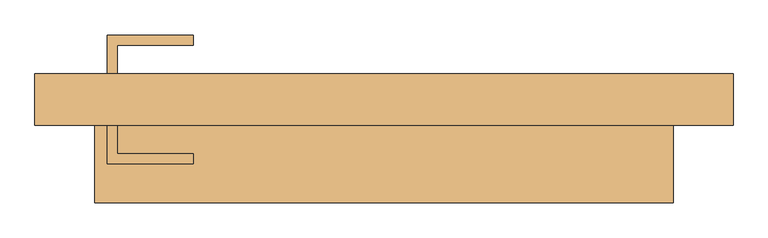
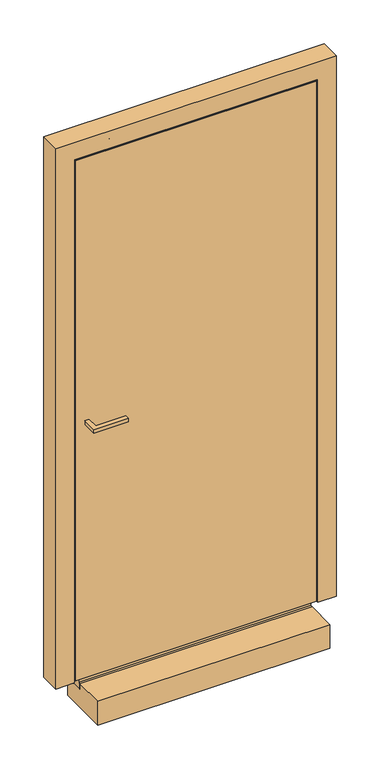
"""IFC4 building model written with IfcOpenShell, lengths in millimetres: door geometry, Reynaers_MasterLine 8_Door_Pivot_Inward Opening_Single Vent_Panel : Reynaers_MasterLine 8_Door_Pivot_Inward Opening_Single Vent_Panel."""

from ifc_helpers import new_model, si_unit, frame, origin, origin_with_axes, place, context, project, spatial, polyline, circle_curve, ellipse_curve, outline, extrude, faceted_brep, source, transform, mapped, element, save
from ifc_brep_helpers import plane_surface, revolved_surface, advanced_brep


def door_be1d781f(model_context):
    return source(origin(), model_context, "Body", "SolidModel", [
        extrude(outline(polyline([(-412.0, -27.0), (-397.0, -27.0), (-397.0, -69.5), (-284.5, -69.5), (-284.5, -84.5), (-412.0, -84.5), (-412.0, -27.0)])), frame((0.0, 0.0, 1000.0), z_axis=(0.0, 0.0, 1.0), x_axis=(1.0, 0.0, 0.0)), (0.0, 0.0, 1.0), 15.0),
        extrude(outline(polyline([(-412.0, 50.0), (-412.0, 107.5), (-284.5, 107.5), (-284.5, 92.5), (-397.0, 92.5), (-397.0, 50.0), (-412.0, 50.0)])), frame((0.0, 0.0, 1000.0), z_axis=(0.0, 0.0, 1.0), x_axis=(1.0, 0.0, 0.0)), (0.0, 0.0, 1.0), 15.0),
        extrude(outline(polyline([(-141.9534375, -10.0030129), (-27.0, -10.0030129), (-27.0, -33.0), (50.0, -33.0), (50.0, -103.0), (-141.9534375, -103.0), (-141.9534375, -10.0030129)])), frame((-430.5, 0.0, 0.0), z_axis=(1.0, 0.0, 0.0), x_axis=(0.0, 1.0, 0.0)), (0.0, 0.0, 1.0), 861.0),
        extrude(outline(polyline([(-430.5, 7.9556368), (430.5, 7.9556368), (430.5, -16.0443635), (-430.5, -16.0443635), (-430.5, 7.9556368)])), origin_with_axes(), (0.0, 0.0, 1.0), 29.0),
        advanced_brep(
        [(-277.0, 49.9998135, 2056.5000055), (-277.0, 49.9998135, 2025.5000055), (-277.0, 41.2, 2025.5000055), (-277.0, 41.2, 2027.6677934), (-277.0, 40.0850084, 2030.5), (-277.0, -18.2000028, 2030.5), (-277.0, -18.2000028, 2056.5000055), (471.5, 49.9998135, 0.0), (471.5, 46.2008135, 0.0), (456.5000055, 46.2008135, 0.0), (456.5000055, -18.2000028, 0.0), (430.5, -18.2000028, 0.0), (430.5, 40.0850084, 0.0), (427.6677934, 41.2, 0.0), (425.5000055, 41.2, 0.0), (425.5000055, 49.9998135, 0.0), (471.5, 49.9998135, 2071.5), (-200.0, 49.9998135, 2071.5), (-200.0, 46.2008135, 2071.5), (471.5, 46.2008135, 2071.5), (-200.0, 46.2008135, 2056.5000055), (456.5000055, 46.2008135, 2056.5000055), (456.5000055, -18.2000028, 2056.5000055), (-200.0, 49.9998135, 2056.5000055), (430.5, -18.2000028, 2030.5), (430.5, 40.0850084, 2030.5), (427.6677934, 41.2, 2027.6677934), (425.5000055, 41.2, 2025.5000055), (425.5000055, 49.9998135, 2025.5000055)],
        [
            (0, 1),
            (1, 2),
            (2, 3),
            (3, 4, circle_curve(frame((-277.0, 41.7014065, 2029.5007685), z_axis=(1.0, 0.0, 0.0), x_axis=(0.0, 0.0, -1.0)), 1.9003175)),
            (4, 5),
            (5, 6),
            (6, 0),
            (7, 8),
            (8, 9),
            (9, 10),
            (10, 11),
            (11, 12),
            (12, 13, circle_curve(frame((429.5007685, 41.7014065, 0.0), z_axis=(0.0, 0.0, 1.0), x_axis=(-1.0, 0.0, 0.0)), 1.9003175)),
            (13, 14),
            (14, 15),
            (15, 7),
            (16, 17),
            (17, 18),
            (18, 19),
            (19, 16),
            (8, 19),
            (18, 20),
            (20, 21),
            (21, 9),
            (6, 22),
            (22, 21),
            (20, 23),
            (23, 0),
            (5, 24),
            (24, 11),
            (10, 22),
            (4, 25),
            (25, 24),
            (3, 26),
            (26, 25, ellipse_curve(frame((429.5007685, 41.7014065, 2029.5007685), z_axis=(0.7071067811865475, 0.0, -0.7071067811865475), x_axis=(0.7071067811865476, 0.0, 0.7071067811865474)), 2.6874548, 1.9003175)),
            (2, 27),
            (27, 14),
            (13, 26),
            (1, 28),
            (28, 27),
            (15, 28),
            (23, 17),
            (16, 7),
            (25, 12),
        ],
        [
            plane_surface(frame((-277.0, 50.0, 2019.5), z_axis=(-1.0, 0.0, 0.0), x_axis=(0.0, -1.0, 0.0))),
            plane_surface(frame((419.5, 50.0, 0.0), z_axis=(0.0, 0.0, -1.0), x_axis=(0.0, -1.0, 0.0))),
            plane_surface(frame((-277.0, 49.9998135, 2071.5), z_axis=(0.0, 0.0, 1.0), x_axis=(1.0, 0.0, 0.0))),
            plane_surface(frame((-277.0, 46.2008135, 2071.5), z_axis=(0.0, -1.0, 0.0), x_axis=(1.0, 0.0, 0.0))),
            plane_surface(frame((-277.0, 46.2008135, 2056.5000055), z_axis=(0.0, 0.0, 1.0), x_axis=(1.0, 0.0, 0.0))),
            plane_surface(frame((-277.0, -18.2000028, 2056.5000055), z_axis=(0.0, -1.0, 0.0), x_axis=(1.0, 0.0, 0.0))),
            plane_surface(frame((-277.0, -18.2000028, 2030.5), z_axis=(0.0, 0.0, -1.0), x_axis=(1.0, 0.0, 0.0))),
            revolved_surface(polyline([(431.4010860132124, 41.7014065, 2027.600451), (-277.0, 41.7014065, 2027.600451)]), (-277.0, 41.7014065, 2029.5007685), (1.0, 0.0, 0.0)),
            plane_surface(frame((-277.0, 41.2, 2027.6677934), z_axis=(0.0, -1.0, 0.0), x_axis=(1.0, 0.0, 0.0))),
            plane_surface(frame((-277.0, 41.2, 2025.5000055), z_axis=(0.0, 0.0, -1.0), x_axis=(1.0, 0.0, 0.0))),
            plane_surface(frame((-277.0, 49.9998135, 2025.5000055), z_axis=(0.0, 1.0, 0.0), x_axis=(1.0, 0.0, 0.0))),
            plane_surface(frame((471.5, 49.9998135, 2071.5), z_axis=(1.0, 0.0, 0.0), x_axis=(0.0, 0.0, -1.0))),
            plane_surface(frame((456.5000055, 46.2008135, 2056.5000055), z_axis=(1.0, 0.0, 0.0), x_axis=(0.0, 0.0, -1.0))),
            plane_surface(frame((430.5, -18.2000028, 2030.5), z_axis=(-1.0, 0.0, 0.0), x_axis=(0.0, 0.0, -1.0))),
            revolved_surface(polyline([(427.60045099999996, 41.7014065, 0.0), (427.60045099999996, 41.7014065, 2031.4010860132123)]), (429.5007685, 41.7014065, 2019.5), (0.0, 0.0, -1.0)),
            plane_surface(frame((425.5000055, 41.2, 2025.5000055), z_axis=(-1.0, 0.0, 0.0), x_axis=(0.0, 0.0, -1.0))),
            plane_surface(frame((-200.0, 50.0, 2019.5), z_axis=(-1.0, 0.0, 0.0), x_axis=(0.0, -1.0, 0.0))),
        ],
        [
            (0, [[1, 2, 3, 4, 5, 6, 7]]),
            (1, [[8, 9, 10, 11, 12, 13, 14, 15, 16]]),
            (2, [[17, 18, 19, 20]]),
            (3, [[21, -19, 22, 23, 24, -9]]),
            (4, [[-7, 25, 26, -23, 27, 28]]),
            (5, [[29, 30, -11, 31, -25, -6]]),
            (6, [[32, 33, -29, -5]]),
            (7, [[34, 35, -32, -4]]),
            (8, [[36, 37, -14, 38, -34, -3]]),
            (9, [[39, 40, -36, -2]]),
            (10, [[41, -39, -1, -28, 42, -17, 43, -16]]),
            (11, [[-43, -20, -21, -8]]),
            (12, [[-24, -26, -31, -10]]),
            (13, [[-30, -33, 44, -12]]),
            (14, [[-44, -35, -38, -13]]),
            (15, [[-37, -40, -41, -15]]),
            (16, [[-22, -18, -42, -27]]),
        ],
    ),
        advanced_brep(
        [(-471.5, 49.9998135, 0.0), (-425.5000055, 49.9998135, 0.0), (-425.5000055, 41.2, 0.0), (-427.6677934, 41.2, 0.0), (-430.5, 40.0850084, 0.0), (-430.5, -18.2000028, 0.0), (-456.5000055, -18.2000028, 0.0), (-456.5000055, 46.2008135, 0.0), (-471.5, 46.2008135, 0.0), (-200.0, 46.2008135, 2056.5000055), (-200.0, 49.9998135, 2056.5000055), (-200.0, 49.9998135, 2071.5), (-200.0, 46.2008135, 2071.5), (-471.5, 49.9998135, 2071.5), (-471.5, 46.2008135, 2071.5), (-456.5000055, -18.2000028, 2056.5000055), (-277.0, -18.2000028, 2056.5000055), (-277.0, 46.2008135, 2056.5000055), (-456.5000055, 46.2008135, 2056.5000055), (-430.5, 40.0850084, 2030.5), (-277.0, 40.0850084, 2030.5), (-277.0, -18.2000028, 2030.5), (-430.5, -18.2000028, 2030.5), (-427.6677934, 41.2, 2027.6677934), (-277.0, 41.2, 2027.6677934), (-425.5000055, 49.9998135, 2025.5000055), (-277.0, 49.9998135, 2025.5000055), (-277.0, 41.2, 2025.5000055), (-425.5000055, 41.2, 2025.5000055), (-277.0, 49.9998135, 2056.5000055)],
        [
            (0, 1),
            (1, 2),
            (2, 3),
            (3, 4, circle_curve(frame((-429.5007685, 41.7014065, 0.0), z_axis=(0.0, 0.0, 1.0), x_axis=(1.0, 0.0, 0.0)), 1.9003175)),
            (4, 5),
            (5, 6),
            (6, 7),
            (7, 8),
            (8, 0),
            (9, 10),
            (10, 11),
            (11, 12),
            (12, 9),
            (11, 13),
            (13, 14),
            (14, 12),
            (15, 16),
            (16, 17),
            (17, 18),
            (18, 15),
            (19, 20),
            (20, 21),
            (21, 22),
            (22, 19),
            (23, 24),
            (24, 20, circle_curve(frame((-277.0, 41.7014065, 2029.5007685), z_axis=(1.0, 0.0, 0.0), x_axis=(0.0, 0.0, -1.0)), 1.9003175)),
            (19, 23, ellipse_curve(frame((-429.5007685, 41.7014065, 2029.5007685), z_axis=(-0.7071067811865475, 0.0, -0.7071067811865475), x_axis=(0.7071067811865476, 0.0, -0.7071067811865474)), 2.6874548, 1.9003175)),
            (25, 26),
            (26, 27),
            (27, 28),
            (28, 25),
            (8, 14),
            (13, 0),
            (7, 18),
            (17, 9),
            (6, 15),
            (5, 22),
            (21, 16),
            (4, 19),
            (3, 23),
            (2, 28),
            (27, 24),
            (1, 25),
            (10, 29),
            (29, 26),
            (29, 17),
        ],
        [
            plane_surface(frame((-419.5, 50.0, 0.0), z_axis=(0.0, 0.0, -1.0), x_axis=(0.0, -1.0, 0.0))),
            plane_surface(frame((-200.0, 50.0, 2019.5), z_axis=(1.0, 0.0, 0.0), x_axis=(0.0, -1.0, 0.0))),
            plane_surface(frame((-471.5, 49.9998135, 2071.5), z_axis=(0.0, 0.0, 1.0), x_axis=(1.0, 0.0, 0.0))),
            plane_surface(frame((-456.5000055, 46.2008135, 2056.5000055), z_axis=(0.0, 0.0, 1.0), x_axis=(1.0, 0.0, 0.0))),
            plane_surface(frame((-430.5, -18.2000028, 2030.5), z_axis=(0.0, 0.0, -1.0), x_axis=(1.0, 0.0, 0.0))),
            revolved_surface(polyline([(-277.0, 41.7014065, 2027.600451), (-431.4010860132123, 41.7014065, 2027.600451)]), (-419.5, 41.7014065, 2029.5007685), (1.0, 0.0, 0.0)),
            plane_surface(frame((-425.5000055, 41.2, 2025.5000055), z_axis=(0.0, 0.0, -1.0), x_axis=(1.0, 0.0, 0.0))),
            plane_surface(frame((-471.5, 49.9998135, 0.0), z_axis=(-1.0, 0.0, 0.0), x_axis=(0.0, 0.0, 1.0))),
            plane_surface(frame((-471.5, 46.2008135, 0.0), z_axis=(0.0, -1.0, 0.0), x_axis=(0.0, 0.0, 1.0))),
            plane_surface(frame((-456.5000055, 46.2008135, 0.0), z_axis=(-1.0, 0.0, 0.0), x_axis=(0.0, 0.0, 1.0))),
            plane_surface(frame((-456.5000055, -18.2000028, 0.0), z_axis=(0.0, -1.0, 0.0), x_axis=(0.0, 0.0, 1.0))),
            plane_surface(frame((-430.5, -18.2000028, 0.0), z_axis=(1.0, 0.0, 0.0), x_axis=(0.0, 0.0, 1.0))),
            revolved_surface(polyline([(-427.60045099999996, 41.7014065, 2031.4010860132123), (-427.60045099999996, 41.7014065, 0.0)]), (-429.5007685, 41.7014065, 0.0), (0.0, 0.0, 1.0)),
            plane_surface(frame((-427.6677934, 41.2, 0.0), z_axis=(0.0, -1.0, 0.0), x_axis=(0.0, 0.0, 1.0))),
            plane_surface(frame((-425.5000055, 41.2, 0.0), z_axis=(1.0, 0.0, 0.0), x_axis=(0.0, 0.0, 1.0))),
            plane_surface(frame((-425.5000055, 49.9998135, 0.0), z_axis=(0.0, 1.0, 0.0), x_axis=(0.0, 0.0, 1.0))),
            plane_surface(frame((-277.0, 50.0, 2019.5), z_axis=(1.0, 0.0, 0.0), x_axis=(0.0, -1.0, 0.0))),
            plane_surface(frame((-277.0, 49.9998135, 2056.5000055), z_axis=(0.0, 0.0, -1.0), x_axis=(1.0, 0.0, 0.0))),
        ],
        [
            (0, [[1, 2, 3, 4, 5, 6, 7, 8, 9]]),
            (1, [[10, 11, 12, 13]]),
            (2, [[14, 15, 16, -12]]),
            (3, [[17, 18, 19, 20]]),
            (4, [[21, 22, 23, 24]]),
            (5, [[25, 26, -21, 27]]),
            (6, [[28, 29, 30, 31]]),
            (7, [[32, -15, 33, -9]]),
            (8, [[34, -19, 35, -13, -16, -32, -8]]),
            (9, [[36, -20, -34, -7]]),
            (10, [[37, -23, 38, -17, -36, -6]]),
            (11, [[39, -24, -37, -5]]),
            (12, [[40, -27, -39, -4]]),
            (13, [[41, -30, 42, -25, -40, -3]]),
            (14, [[43, -31, -41, -2]]),
            (15, [[-33, -14, -11, 44, 45, -28, -43, -1]]),
            (16, [[-18, -38, -22, -26, -42, -29, -45, 46]]),
            (17, [[-44, -10, -35, -46]]),
        ],
    ),
        extrude(outline(polyline([(50.0, 0.0), (50.0, -33.0), (-27.0, -33.0), (-27.0, -10.0), (-18.1943844, -10.0), (-18.1943844, 0.0), (50.0, 0.0)])), frame((-430.5, 0.0, 0.0), z_axis=(1.0, 0.0, 0.0), x_axis=(0.0, 1.0, 0.0)), (0.0, 0.0, 1.0), 861.0),
        faceted_brep([(-451.5, -23.2001836, 0.0), (-451.5, -27.0, 0.0), (-520.0, -27.0, 0.0), (-520.0, 50.0, 0.0), (-477.5, 50.0, 0.0), (-477.5, 41.2, 0.0), (-466.5, 41.2, 0.0), (-466.5, -23.2001836, 0.0), (-466.5, -23.2001836, 2066.5), (466.5, -23.2001836, 2066.5), (466.5, -23.2001836, 0.0), (451.5, -23.2001836, 0.0), (451.5, -23.2001836, 2051.5), (-451.5, -23.2001836, 2051.5), (-520.0, -27.0, 2120.0), (-520.0, 50.0, 2120.0), (-451.5, -27.0, 2051.5), (451.5, -27.0, 2051.5), (451.5, -27.0, 0.0), (520.0, -27.0, 0.0), (520.0, -27.0, 2120.0), (520.0, 50.0, 2120.0), (466.5, 41.2, 0.0), (477.5, 41.2, 0.0), (477.5, 50.0, 0.0), (520.0, 50.0, 0.0), (-466.5, 41.2, 2066.5), (477.5, 50.0, 2077.5), (-477.5, 50.0, 2077.5), (466.5, 41.2, 2066.5), (-477.5, 41.2, 2077.5), (477.5, 41.2, 2077.5)], [[[0, 1, 2, 3, 4, 5, 6, 7]], [[7, 8, 9, 10, 11, 12, 13, 0]], [[2, 14, 15, 3]], [[1, 16, 17, 18, 19, 20, 14, 2]], [[0, 13, 16, 1]], [[14, 20, 21, 15]], [[13, 12, 17, 16]], [[11, 10, 22, 23, 24, 25, 19, 18]], [[20, 19, 25, 21]], [[12, 11, 18, 17]], [[6, 26, 8, 7]], [[3, 15, 21, 25, 24, 27, 28, 4]], [[26, 29, 9, 8]], [[29, 22, 10, 9]], [[5, 30, 31, 23, 22, 29, 26, 6]], [[4, 28, 30, 5]], [[28, 27, 31, 30]], [[27, 24, 23, 31]]]),
        faceted_brep([(-368.0, 47.0, 1968.0), (368.0, 47.0, 1968.0), (368.0, -24.0, 1968.0), (-368.0, -24.0, 1968.0), (-419.5, 41.2, 2019.5), (419.5, 41.2, 2019.5), (419.5, 47.0, 2019.5), (-419.5, 47.0, 2019.5), (368.0, 47.0, 91.5), (368.0, -24.0, 91.5), (419.5, 41.2, 40.0), (419.5, 47.0, 40.0), (-368.0, 47.0, 91.5), (-368.0, -24.0, 91.5), (-419.5, 41.2, 40.0), (-419.5, 47.0, 40.0), (-430.5, 41.2, 2030.5), (430.5, 41.2, 2030.5), (430.5, 41.2, 29.0), (-430.5, 41.2, 29.0), (-430.5, -18.2001837, 2030.5), (430.5, -18.2001837, 2030.5), (-419.5, -24.0, 2019.5), (419.5, -24.0, 2019.5), (419.5, -18.2001837, 2019.5), (-419.5, -18.2001837, 2019.5), (430.5, -18.2001837, 29.0), (419.5, -24.0, 40.0), (419.5, -18.2001837, 40.0), (-430.5, -18.2001837, 29.0), (-419.5, -24.0, 40.0), (-419.5, -18.2001837, 40.0)], [[[0, 1, 2, 3]], [[4, 5, 6, 7]], [[1, 8, 9, 2]], [[5, 10, 11, 6]], [[8, 12, 13, 9]], [[10, 14, 15, 11]], [[12, 0, 3, 13]], [[7, 6, 11, 15], [1, 0, 12, 8]], [[14, 4, 7, 15]], [[16, 17, 18, 19], [5, 4, 14, 10]], [[20, 21, 17, 16]], [[22, 23, 24, 25]], [[21, 26, 18, 17]], [[23, 27, 28, 24]], [[26, 29, 19, 18]], [[27, 30, 31, 28]], [[29, 20, 16, 19]], [[21, 20, 29, 26], [25, 24, 28, 31]], [[30, 22, 25, 31]], [[23, 22, 30, 27], [3, 2, 9, 13]]]),
        extrude(outline(polyline([(445.5, -27.0), (-445.5, -27.0), (-445.5, -24.0), (445.5, -24.0), (445.5, -27.0)])), frame((0.0, 0.0, 7.0), z_axis=(0.0, 0.0, 1.0), x_axis=(1.0, 0.0, 0.0)), (0.0, 0.0, 1.0), 2038.5),
        extrude(outline(polyline([(419.5, 47.0), (-419.5, 47.0), (-419.5, 50.0), (419.5, 50.0), (419.5, 47.0)])), frame((0.0, 0.0, 7.0), z_axis=(0.0, 0.0, 1.0), x_axis=(1.0, 0.0, 0.0)), (0.0, 0.0, 1.0), 2012.5),
        extrude(outline(polyline([(363.0, 47.0), (363.0, -24.0), (-363.0, -24.0), (-363.0, 47.0), (363.0, 47.0)])), frame((0.0, 0.0, 96.5), z_axis=(0.0, 0.0, 1.0), x_axis=(1.0, 0.0, 0.0)), (0.0, 0.0, 1.0), 1866.5),
    ])


if __name__ == "__main__":
    model = new_model("IFC4")
    model_context = context("Model", 3, world=origin())
    ifc_project = project(units=[si_unit("LENGTHUNIT", "METRE", prefix="MILLI")], contexts=[model_context])
    site = spatial("IfcSite", under=ifc_project)
    building = spatial("IfcBuilding", under=site)
    placement = place(None, origin())
    door_shape = door_be1d781f(model_context)
    element("IfcDoor", 1, ObjectType="Reynaers_MasterLine 8_Door_Pivot_Inward Opening_Single Vent_Panel : Reynaers_MasterLine 8_Door_Pivot_Inward Opening_Single Vent_Panel", at=placement, inside=building, context=model_context, shape_type="MappedRepresentation", body=[
        mapped(door_shape, transform((0.0, 0.0, 0.0), x_axis=(1.0, 0.0, 0.0), y_axis=(0.0, 1.0, 0.0), z_axis=(0.0, 0.0, 1.0))),
    ])
    save(model, "model.ifc")
